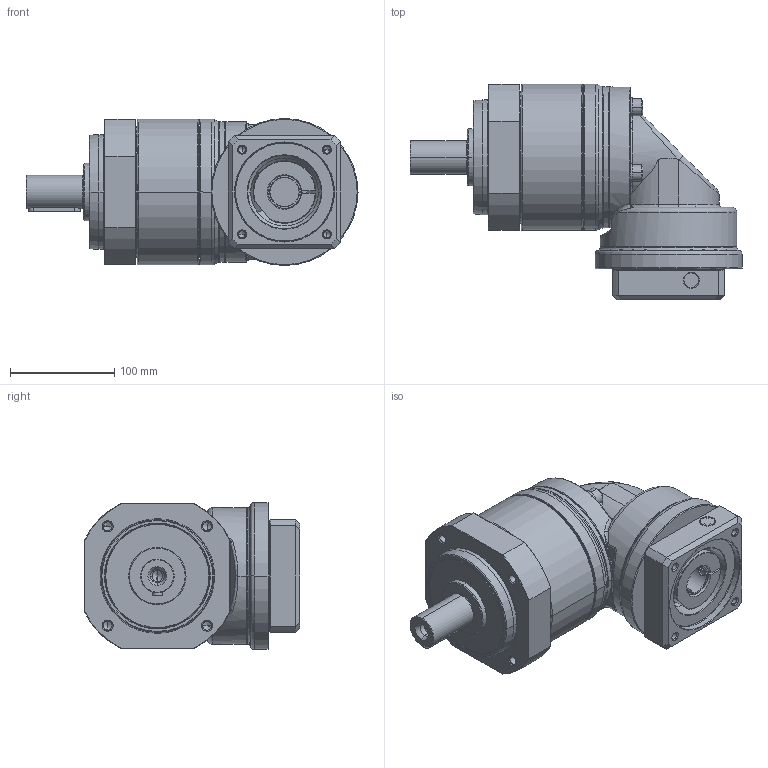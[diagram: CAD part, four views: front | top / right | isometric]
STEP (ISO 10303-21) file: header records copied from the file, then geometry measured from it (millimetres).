
FILE_DESCRIPTION((''),'2;1');
FILE_NAME('PS2R-E_1ST_28-P0411600101_ASM','2016-05-30T',('d01943'),(''),'PRO/ENGINEER BY PARAMETRIC TECHNOLOGY CORPORATION, 2008410','PRO/ENGINEER BY PARAMETRIC TECHNOLOGY CORPORATION, 2008410','');
FILE_SCHEMA(('CONFIG_CONTROL_DESIGN'));
Length unit declared in the file: millimetre
Products named in the file (12): P1328510001; P0250500001; P0350501401; P1349500001; P1017500001; P0713502001; P0503600008; P1350500201; P0411600101; P1702500001; 2111BA10040; PS2R-E_1ST_28-P0411600101_ASM
Assembly tree (14 placements, depth 2):
  PS2R-E_1ST_28-P0411600101_ASM
    P1328510001
    P0250500001
    P0350501401
    P1349500001
    P1017500001
    P0713502001
    P0503600008
    P1350500201
    P0411600101
    P1702500001
    2111BA10040  x4
Bounding box: 318.5 x 206.5 x 141 mm (x, y, z)
Volume: 2477342 mm3; surface area: 433765.5 mm2
Topology: 14 solids, 14 shells, 714 faces, 1576 edges, 909 vertices
Faces by surface type: cylinder 210, cone 208, plane 166, torus 96, bspline 34
Entity records: 22717 total; most frequent: CARTESIAN_POINT 8999, DIRECTION 3016, ORIENTED_EDGE 2664, EDGE_CURVE 1332, AXIS2_PLACEMENT_3D 1267, VERTEX_POINT 789, EDGE_LOOP 691, CIRCLE 660
